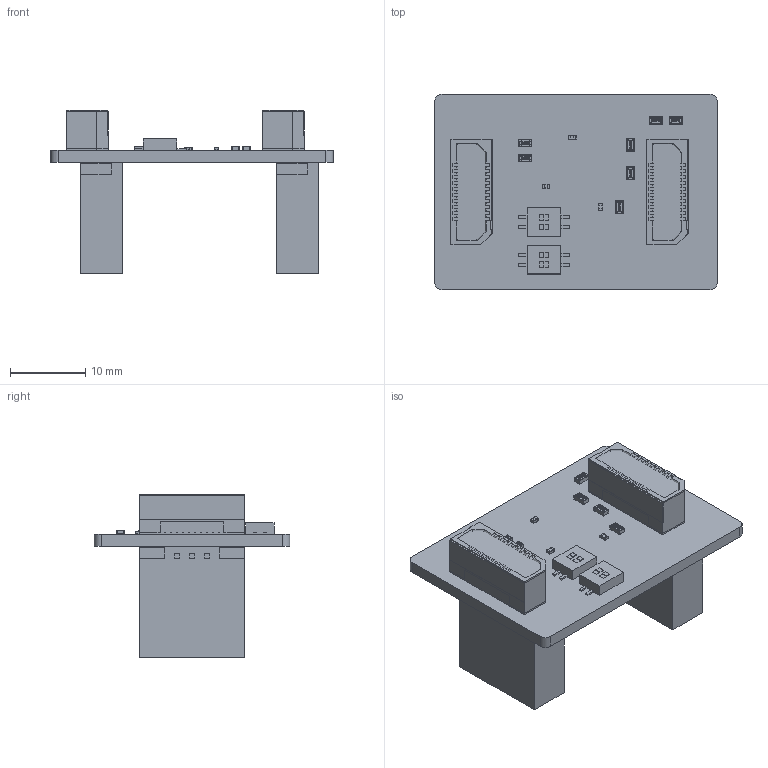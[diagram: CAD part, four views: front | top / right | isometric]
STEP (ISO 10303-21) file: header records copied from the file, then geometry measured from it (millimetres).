
FILE_DESCRIPTION(('Open CASCADE Model'),'2;1');
FILE_NAME('Open CASCADE Shape Model','2020-08-20T10:56:46',('Author'),( 'Open CASCADE'),'Open CASCADE STEP processor 6.8','Open CASCADE 6.8' ,'Unknown');
FILE_SCHEMA(('AUTOMOTIVE_DESIGN { 1 0 10303 214 1 1 1 1 }'));
Length unit declared in the file: millimetre
Products named in the file (47): PCB; Board; Open CASCADE STEP translator 6.8 2.1.1; C1; C0402; 6784872544; Extruded; C2; C3; 6784867904; CN1; ERM8-010-02.0-L-DV-TR; _ERM8-010-02.0-DVt; _ERM8-010-02.0-DV_pin; 6784866864; CN2; CN3; ERF8-010-05.0-S-DV-TR; _ERF8-010-05.0-S-DV-TR_terminal; _ERF8-C-211-05.0-010_Pin; 6784872944; CN4; R1; R0603; 6784874464; R2; R3; R4; 6784870624; R5; R6; R7; SW1; 5726912976; 6784875984; 6784875504; 6784874784; SW2
Assembly tree (78 placements, depth 4):
  PCB
    Board
      Open CASCADE STEP translator 6.8 2.1.1
    C1
      C0402
      6784872544
        Extruded
    C2
      C0402
      6784872544
        Extruded
    C3
      C0402
      6784867904
        Extruded
    CN1
      ERM8-010-02.0-L-DV-TR
        _ERM8-010-02.0-DVt
        _ERM8-010-02.0-DV_pin
      6784866864
        Extruded
    CN2
      ERM8-010-02.0-L-DV-TR
        _ERM8-010-02.0-DVt
        _ERM8-010-02.0-DV_pin
      6784866864
        Extruded
    CN3
      ERF8-010-05.0-S-DV-TR
        _ERF8-010-05.0-S-DV-TR_terminal
        _ERF8-C-211-05.0-010_Pin
      6784872944
        Extruded
    CN4
      ERF8-010-05.0-S-DV-TR
        _ERF8-010-05.0-S-DV-TR_terminal
        _ERF8-C-211-05.0-010_Pin
      6784872944
        Extruded
    R1
      R0603
      6784874464
        Extruded
    R2
      R0603
      6784874464
        Extruded
    R3
      R0603
      6784874464
        Extruded
    R4
      R0603
      6784870624
        Extruded
    R5
      R0603
      6784870624
        Extruded
    R6
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Bounding box: 37.5 x 26 x 21.69 mm (x, y, z)
Volume: 5489.7 mm3; surface area: 7318.4 mm2
Topology: 72 solids, 72 shells, 4814 faces, 13603 edges, 8990 vertices
Faces by surface type: plane 3109, cylinder 1330, bspline 349, revolution 24, torus 2
Full cylindrical faces by diameter (mm): 1.32 x4, 1.5 x8
Entity records: 88105 total; most frequent: CARTESIAN_POINT 17219, ORIENTED_EDGE 12154, DIRECTION 11347, EDGE_CURVE 6077, LINE 4517, VECTOR 4517, VERTEX_POINT 4020, AXIS2_PLACEMENT_3D 3411
